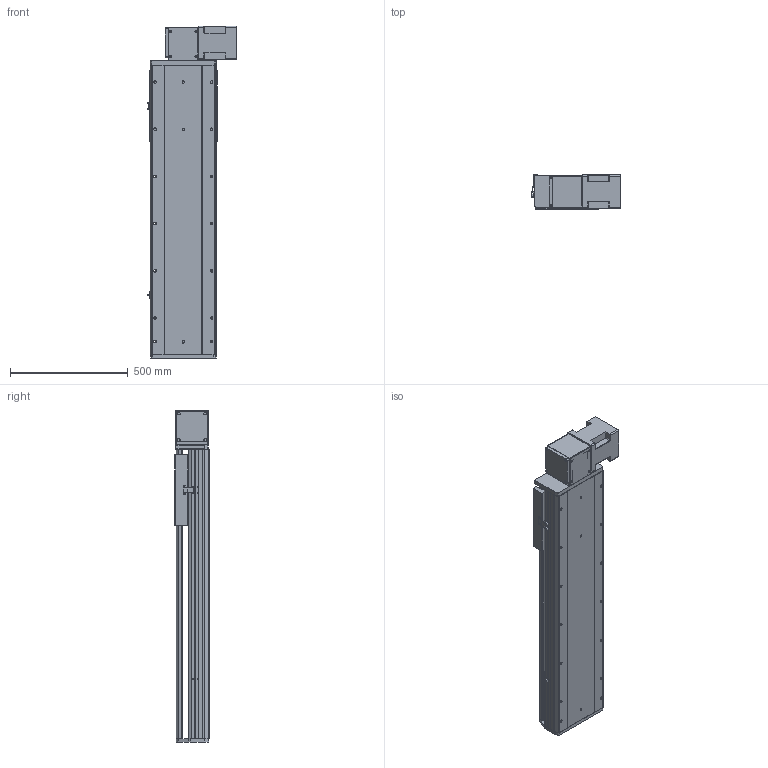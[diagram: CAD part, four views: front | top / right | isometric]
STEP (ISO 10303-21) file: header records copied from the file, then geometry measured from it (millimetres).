
FILE_DESCRIPTION (( 'STEP AP214' ), '1' );
FILE_NAME ('RTB28S-XX-800-BL-M100-XX-C4.STEP', '2025-12-22T02:18:34', ( '' ), ( '' ), 'SwSTEP 2.0', 'SolidWorks 2018', '' );
FILE_SCHEMA (( 'AUTOMOTIVE_DESIGN' ));
Length unit declared in the file: millimetre
Products named in the file (4): RTB28S-GY-004^RTB28S-XX-XX-BL-M100-XX-C4; RTB28S-GY-008^RTB28S-XX-XX-BL-M100-XX-C4; RTB28S-GY-011^RTB28S-XX-XX-BL-M100-XX-C4; RTB28S-XX-800-BL-M100-XX-C4
Assembly tree (3 placements, depth 2):
  RTB28S-XX-800-BL-M100-XX-C4
    RTB28S-GY-011^RTB28S-XX-XX-BL-M100-XX-C4
    RTB28S-GY-004^RTB28S-XX-XX-BL-M100-XX-C4
    RTB28S-GY-008^RTB28S-XX-XX-BL-M100-XX-C4
Bounding box: 380.7 x 145 x 1407 mm (x, y, z)
Volume: 26461784 mm3; surface area: 2577810.9 mm2
Topology: 3 solids, 4 shells, 778 faces, 2058 edges, 1308 vertices
Faces by surface type: cylinder 351, plane 343, cone 80, torus 4
Entity records: 29027 total; most frequent: CARTESIAN_POINT 4852, DIRECTION 4356, ORIENTED_EDGE 4052, EDGE_CURVE 2026, AXIS2_PLACEMENT_3D 1568, VERTEX_POINT 1308, VECTOR 1220, LINE 1220
